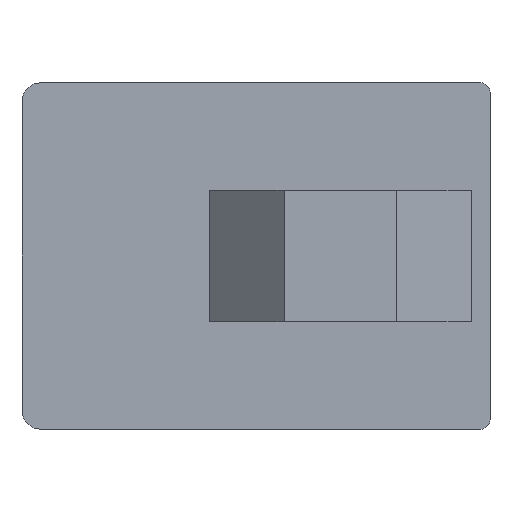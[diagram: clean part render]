
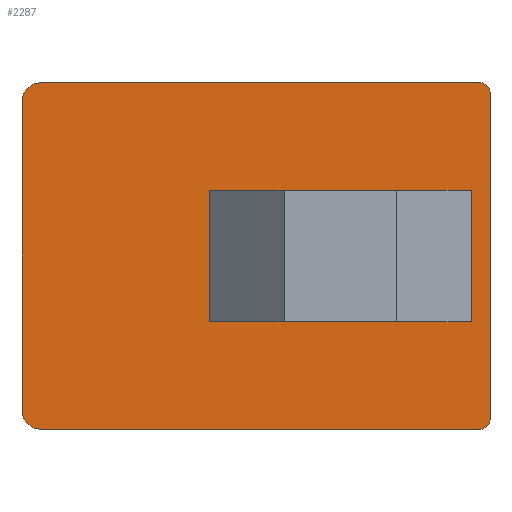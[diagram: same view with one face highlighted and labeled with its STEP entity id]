
A CAD part, front view. The second image highlights one B-rep face of the part: STEP entity #2287.
In plain terms, the highlighted planar face has unit normal (0, -1, 0).
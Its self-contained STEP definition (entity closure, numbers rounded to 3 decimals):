
#62=LINE('',#3049,#236);
#66=LINE('',#3060,#240);
#70=LINE('',#3072,#244);
#83=LINE('',#3117,#257);
#84=LINE('',#3122,#258);
#85=LINE('',#3124,#259);
#86=LINE('',#3128,#260);
#87=LINE('',#3133,#261);
#236=VECTOR('',#2555,1000.);
#240=VECTOR('',#2563,1000.);
#244=VECTOR('',#2573,1000.);
#257=VECTOR('',#2610,1000.);
#258=VECTOR('',#2613,1000.);
#259=VECTOR('',#2614,1000.);
#260=VECTOR('',#2617,1000.);
#261=VECTOR('',#2624,1000.);
#448=ORIENTED_EDGE('',*,*,#929,.T.);
#449=ORIENTED_EDGE('',*,*,#930,.T.);
#450=ORIENTED_EDGE('',*,*,#931,.T.);
#451=ORIENTED_EDGE('',*,*,#932,.T.);
#452=ORIENTED_EDGE('',*,*,#933,.T.);
#453=ORIENTED_EDGE('',*,*,#934,.T.);
#454=ORIENTED_EDGE('',*,*,#902,.T.);
#455=ORIENTED_EDGE('',*,*,#935,.F.);
#456=ORIENTED_EDGE('',*,*,#897,.F.);
#457=ORIENTED_EDGE('',*,*,#936,.F.);
#458=ORIENTED_EDGE('',*,*,#908,.F.);
#459=ORIENTED_EDGE('',*,*,#937,.F.);
#460=ORIENTED_EDGE('',*,*,#938,.T.);
#461=ORIENTED_EDGE('',*,*,#939,.F.);
#897=EDGE_CURVE('',#1138,#1139,#62,.T.);
#902=EDGE_CURVE('',#1144,#1143,#66,.T.);
#908=EDGE_CURVE('',#1149,#1150,#70,.T.);
#929=EDGE_CURVE('',#1169,#1170,#83,.T.);
#930=EDGE_CURVE('',#1170,#1171,#1300,.T.);
#931=EDGE_CURVE('',#1171,#1172,#84,.T.);
#932=EDGE_CURVE('',#1172,#1173,#85,.T.);
#933=EDGE_CURVE('',#1173,#1174,#1301,.T.);
#934=EDGE_CURVE('',#1174,#1169,#86,.T.);
#935=EDGE_CURVE('',#1139,#1143,#1302,.T.);
#936=EDGE_CURVE('',#1150,#1138,#1303,.T.);
#937=EDGE_CURVE('',#1175,#1149,#1304,.T.);
#938=EDGE_CURVE('',#1175,#1176,#87,.T.);
#939=EDGE_CURVE('',#1144,#1176,#1305,.T.);
#1138=VERTEX_POINT('',#3048);
#1139=VERTEX_POINT('',#3050);
#1143=VERTEX_POINT('',#3059);
#1144=VERTEX_POINT('',#3061);
#1149=VERTEX_POINT('',#3073);
#1150=VERTEX_POINT('',#3074);
#1169=VERTEX_POINT('',#3118);
#1170=VERTEX_POINT('',#3119);
#1171=VERTEX_POINT('',#3121);
#1172=VERTEX_POINT('',#3123);
#1173=VERTEX_POINT('',#3125);
#1174=VERTEX_POINT('',#3127);
#1175=VERTEX_POINT('',#3132);
#1176=VERTEX_POINT('',#3134);
#1300=CIRCLE('',#2403,4.);
#1301=CIRCLE('',#2404,4.);
#1302=CIRCLE('',#2405,0.5);
#1303=CIRCLE('',#2406,0.5);
#1304=CIRCLE('',#2407,1.);
#1305=CIRCLE('',#2408,1.);
#1357=EDGE_LOOP('',(#448,#449,#450,#451,#452,#453));
#1358=EDGE_LOOP('',(#454,#455,#456,#457,#458,#459,#460,#461));
#1464=FACE_BOUND('',#1357,.T.);
#1465=FACE_BOUND('',#1358,.T.);
#1566=PLANE('',#2402);
#2287=ADVANCED_FACE('',(#1464,#1465),#1566,.F.);
#2402=AXIS2_PLACEMENT_3D('',#3116,#2608,#2609);
#2403=AXIS2_PLACEMENT_3D('',#3120,#2611,#2612);
#2404=AXIS2_PLACEMENT_3D('',#3126,#2615,#2616);
#2405=AXIS2_PLACEMENT_3D('',#3129,#2618,#2619);
#2406=AXIS2_PLACEMENT_3D('',#3130,#2620,#2621);
#2407=AXIS2_PLACEMENT_3D('',#3131,#2622,#2623);
#2408=AXIS2_PLACEMENT_3D('',#3135,#2625,#2626);
#2555=DIRECTION('',(0.,0.,-1.));
#2563=DIRECTION('',(1.,0.,0.));
#2573=DIRECTION('',(1.,0.,0.));
#2608=DIRECTION('',(0.,1.,0.));
#2609=DIRECTION('',(0.,0.,1.));
#2610=DIRECTION('',(-1.,0.,0.));
#2611=DIRECTION('',(0.,1.,0.));
#2612=DIRECTION('',(1.,0.,0.));
#2613=DIRECTION('',(0.,0.,1.));
#2614=DIRECTION('',(1.,0.,0.));
#2615=DIRECTION('',(0.,1.,0.));
#2616=DIRECTION('',(1.,0.,0.));
#2617=DIRECTION('',(0.,0.,-1.));
#2618=DIRECTION('',(0.,1.,0.));
#2619=DIRECTION('',(1.,0.,0.));
#2620=DIRECTION('',(0.,1.,0.));
#2621=DIRECTION('',(1.,0.,0.));
#2622=DIRECTION('',(0.,1.,0.));
#2623=DIRECTION('',(1.,0.,0.));
#2624=DIRECTION('',(0.,0.,-1.));
#2625=DIRECTION('',(0.,1.,0.));
#2626=DIRECTION('',(1.,0.,0.));
#3048=CARTESIAN_POINT('',(8.,0.,8.75));
#3049=CARTESIAN_POINT('',(8.,0.,9.25));
#3050=CARTESIAN_POINT('',(8.,0.,-8.75));
#3059=CARTESIAN_POINT('',(7.5,0.,-9.25));
#3060=CARTESIAN_POINT('',(-17.866,0.,-9.25));
#3061=CARTESIAN_POINT('',(-16.,0.,-9.25));
#3072=CARTESIAN_POINT('',(-17.866,0.,9.25));
#3073=CARTESIAN_POINT('',(-16.,0.,9.25));
#3074=CARTESIAN_POINT('',(7.5,0.,9.25));
#3116=CARTESIAN_POINT('',(-17.866,0.,9.25));
#3117=CARTESIAN_POINT('',(4.,0.,-3.3));
#3118=CARTESIAN_POINT('',(4.,0.,-3.3));
#3119=CARTESIAN_POINT('',(0.,0.,-3.3));
#3120=CARTESIAN_POINT('',(0.,0.,0.7));
#3121=CARTESIAN_POINT('',(-4.,0.,0.7));
#3122=CARTESIAN_POINT('',(-4.,0.,0.7));
#3123=CARTESIAN_POINT('',(-4.,0.,3.3));
#3124=CARTESIAN_POINT('',(-4.,0.,3.3));
#3125=CARTESIAN_POINT('',(0.,0.,3.3));
#3126=CARTESIAN_POINT('',(0.,0.,-0.7));
#3127=CARTESIAN_POINT('',(4.,0.,-0.7));
#3128=CARTESIAN_POINT('',(4.,0.,-0.7));
#3129=CARTESIAN_POINT('',(7.5,0.,-8.75));
#3130=CARTESIAN_POINT('',(7.5,0.,8.75));
#3131=CARTESIAN_POINT('',(-16.,0.,8.25));
#3132=CARTESIAN_POINT('',(-17.,0.,8.25));
#3133=CARTESIAN_POINT('',(-17.,0.,8.25));
#3134=CARTESIAN_POINT('',(-17.,0.,-8.25));
#3135=CARTESIAN_POINT('',(-16.,0.,-8.25));
